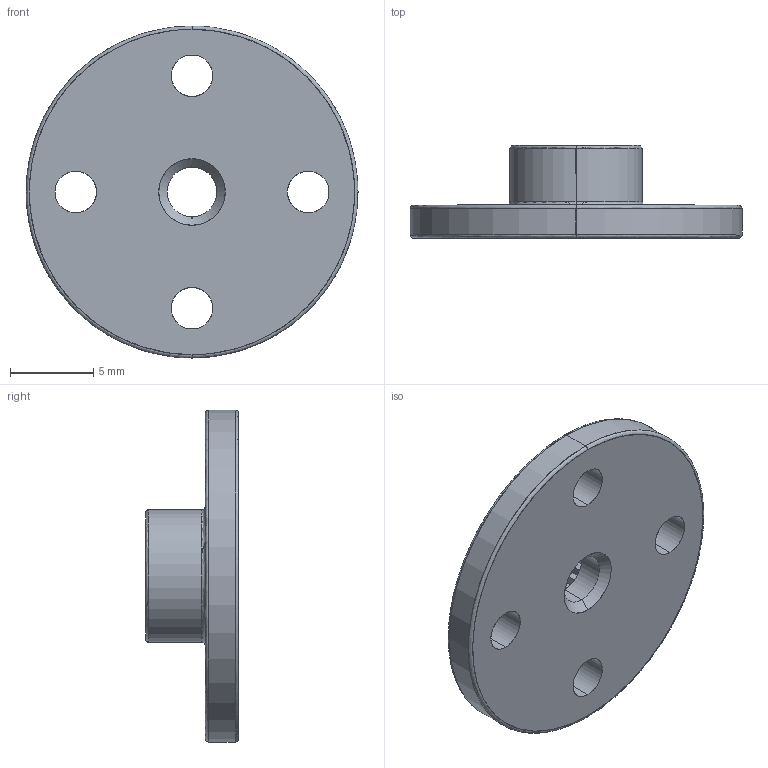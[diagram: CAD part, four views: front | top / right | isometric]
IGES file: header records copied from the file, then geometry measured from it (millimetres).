
Start section: SolidWorks IGES file using analytic representation for surfaces
Global section: file name: C:\Users\Alexandre\Dropbox\Etudes\Solidworks\Servo Mounts\Servo Mount - Horn Frame.IGS; native system: SolidWorks 2016; preprocessor: SolidWorks 2016; author: Alexandre; date: 160303.090625; units: millimetre
Bounding box: 20 x 5.6 x 20 mm (x, y, z)
Surface area: 937.8 mm2 (no closed solid volume)
Topology: 0 solids, 0 shells, 78 faces, 844 edges, 844 vertices
Faces by surface type: bspline 62, revolution 16
